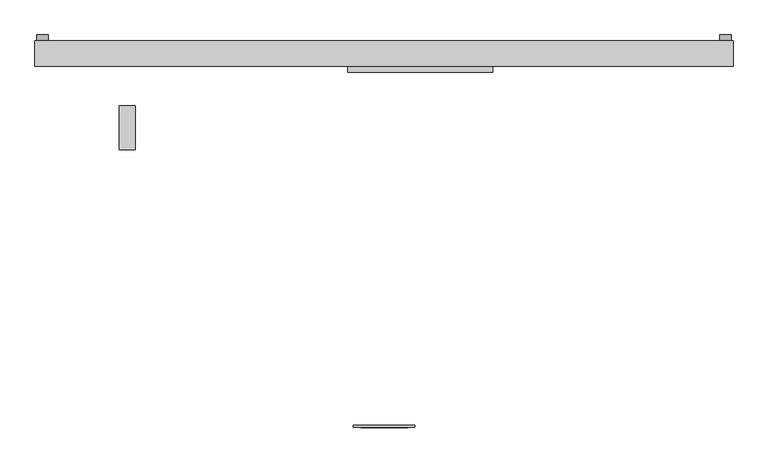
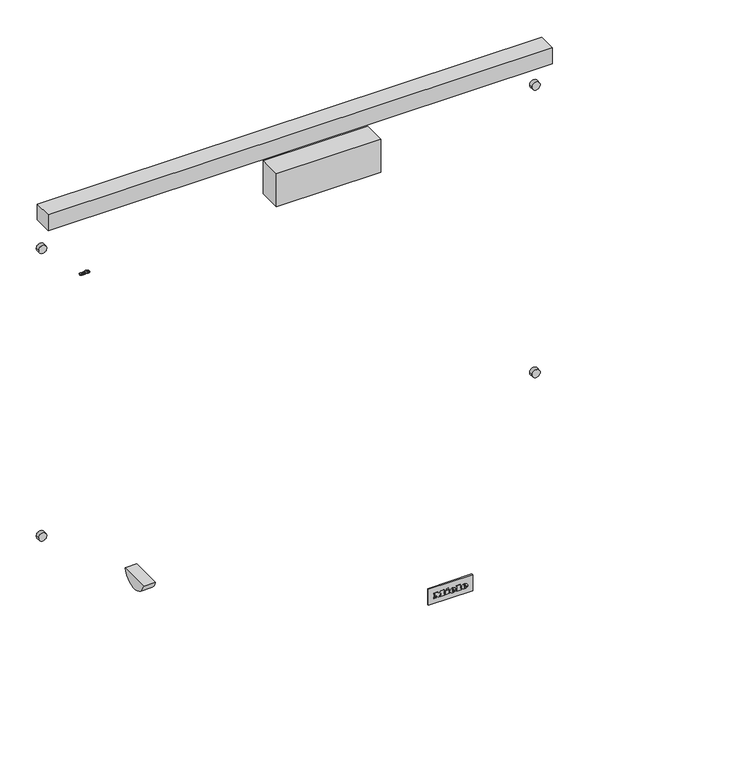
"""IFC4 building model written with IfcOpenShell, lengths in millimetres: proxy geometry, 11791690_USA_HR1955-3G_EDST-CLST : 25195581_USA_11791690_HR1955-3G_EDST-CLST."""

from ifc_helpers import new_model, si_unit, point, frame, frame_2d, origin, place, context, project, spatial, polyline, circle_curve, ellipse_curve, trimmed, segment, composite_curve, outline, extrude, source, transform, mapped, element, save
from ifc_brep_helpers import plane_surface, cylinder_surface, revolved_surface, extruded_surface, advanced_brep


def specialty_equipment_37804b92(model_context):
    return source(origin(), model_context, "Body", "SolidModel", [
        extrude(outline(composite_curve([segment(polyline([(-511.5941465, -31.8216074), (-507.5193946, -31.8216074), (-507.5193946, -33.0727848), (-510.3300756, -33.0727848), (-510.3300756, -34.8953779), (-509.0547934, -35.5734575), (-507.3554891, -35.8730907)]), True, "CONTINUOUS"), segment(trimmed(circle_curve(frame_2d((-507.2763582, -32.1835188)), 3.6904203), [point((-507.3554891, -35.8730907))], [point((-503.5917956, -31.975672))], True, "CARTESIAN"), True, "CONTINUOUS"), segment(trimmed(circle_curve(frame_2d((-507.7742118, -32.2116028)), 4.1890654), [point((-503.5917956, -31.975672))], [point((-507.3924604, -28.0399683))], True, "CARTESIAN"), True, "CONTINUOUS"), segment(trimmed(circle_curve(frame_2d((-507.6434541, -30.7827322)), 2.7542243), [point((-507.3924604, -28.0399683))], [point((-509.7311401, -28.9862582))], True, "CARTESIAN"), True, "CONTINUOUS"), segment(polyline([(-509.7311401, -28.9862582), (-510.2913432, -30.1348449), (-511.4545959, -29.808521), (-510.7222817, -28.1459412)]), True, "CONTINUOUS"), segment(trimmed(circle_curve(frame_2d((-507.5056573, -31.3038983)), 4.5077007), [point((-510.7222817, -28.1459412))], [point((-507.3478593, -26.7989604))], False, "CARTESIAN"), True, "CONTINUOUS"), segment(trimmed(circle_curve(frame_2d((-507.5297107, -32.0029797)), 5.2071956), [point((-507.3478593, -26.7989604))], [point((-502.3225151, -32.0029797))], False, "CARTESIAN"), True, "CONTINUOUS"), segment(trimmed(circle_curve(frame_2d((-507.5187023, -31.9634409)), 5.1963376), [point((-502.3225151, -32.0029797))], [point((-507.5187023, -37.1597785))], False, "CARTESIAN"), True, "CONTINUOUS"), segment(polyline([(-507.5187023, -37.1597785), (-509.5821579, -36.7823822), (-511.5941465, -35.5734575), (-511.5941465, -31.8216074)]), True, "CONTINUOUS")], self_intersect=False)), frame((0.0, 0.0, 753.0), z_axis=(0.0, 0.0, 1.0), x_axis=(1.0, 0.0, 0.0)), (0.0, 0.0, 1.0), 1.0),
        extrude(outline(composite_curve([segment(polyline([(-521.9581842, -34.6489066), (-520.702206, -34.8031213), (-521.6593436, -36.5606642)]), True, "CONTINUOUS"), segment(trimmed(circle_curve(frame_2d((-523.8057471, -33.6354063)), 3.6282478), [point((-521.6593436, -36.5606642))], [point((-525.3962663, -36.8964538))], False, "CARTESIAN"), True, "CONTINUOUS"), segment(trimmed(circle_curve(frame_2d((-524.2731504, -34.593725)), 2.5620205), [point((-525.3962663, -36.8964538))], [point((-526.82893, -34.7724425))], False, "CARTESIAN"), True, "CONTINUOUS"), segment(trimmed(circle_curve(frame_2d((-525.117737, -34.6527843)), 1.7153715), [point((-526.82893, -34.7724425))], [point((-525.647816, -33.021369))], False, "CARTESIAN"), True, "CONTINUOUS"), segment(polyline([(-525.647816, -33.021369), (-523.8069947, -32.4232499), (-522.487673, -30.9770867)]), True, "CONTINUOUS"), segment(trimmed(circle_curve(frame_2d((-523.6408399, -33.351197)), 2.6393548), [point((-522.487673, -30.9770867))], [point((-524.7940069, -30.9770867))], True, "CARTESIAN"), True, "CONTINUOUS"), segment(polyline([(-524.7940069, -30.9770867), (-525.2553884, -31.6611129), (-526.5084996, -31.5072502), (-526.0756304, -30.3795875)]), True, "CONTINUOUS"), segment(trimmed(circle_curve(frame_2d((-523.4527143, -33.6576461)), 4.1982564), [point((-526.0756304, -30.3795875))], [point((-523.5505395, -29.4605295))], False, "CARTESIAN"), True, "CONTINUOUS"), segment(trimmed(circle_curve(frame_2d((-523.4805679, -32.4626064)), 3.0028922), [point((-523.5505395, -29.4605295))], [point((-521.0718203, -30.6694816))], False, "CARTESIAN"), True, "CONTINUOUS"), segment(trimmed(circle_curve(frame_2d((-522.9380028, -31.5301363)), 2.0550823), [point((-521.0718203, -30.6694816))], [point((-521.9341096, -33.323335))], False, "CARTESIAN"), True, "CONTINUOUS"), segment(polyline([(-521.9341096, -33.323335), (-523.8494535, -33.9828408), (-525.5597255, -34.9076387), (-525.1768706, -35.6156702)]), True, "CONTINUOUS"), segment(trimmed(circle_curve(frame_2d((-523.8695779, -32.6018954)), 3.2850956), [point((-525.1768706, -35.6156702))], [point((-522.5622852, -35.6156702))], True, "CARTESIAN"), True, "CONTINUOUS"), segment(polyline([(-522.5622852, -35.6156702), (-521.9581842, -34.6489066)]), True, "CONTINUOUS")], self_intersect=False)), frame((0.0, 0.0, 753.0), z_axis=(0.0, 0.0, 1.0), x_axis=(1.0, 0.0, 0.0)), (0.0, 0.0, 1.0), 1.0),
        extrude(outline(composite_curve([segment(polyline([(-518.5009008, -37.0), (-519.7635363, -37.0), (-519.5191787, -35.9415709), (-519.3778726, -31.1117735)]), True, "CONTINUOUS"), segment(trimmed(circle_curve(frame_2d((-517.887549, -31.1553762)), 1.4909613), [point((-519.3778726, -31.1117735))], [point((-518.1381402, -29.6856246))], False, "CARTESIAN"), True, "CONTINUOUS"), segment(trimmed(circle_curve(frame_2d((-516.6175682, -34.7832301)), 5.3195602), [point((-518.1381402, -29.6856246))], [point((-514.940667, -29.7348914))], False, "CARTESIAN"), True, "CONTINUOUS"), segment(polyline([(-514.940667, -29.7348914), (-513.8643767, -30.4338425), (-513.3177226, -31.6616478), (-514.5710839, -31.8155412), (-515.1628147, -30.9704619)]), True, "CONTINUOUS"), segment(trimmed(circle_curve(frame_2d((-516.389909, -33.6278559)), 2.9270297), [point((-515.1628147, -30.9704619))], [point((-517.835883, -31.0829271))], True, "CARTESIAN"), True, "CONTINUOUS"), segment(polyline([(-517.835883, -31.0829271), (-518.1819155, -32.289686), (-514.9250607, -32.9227545)]), True, "CONTINUOUS"), segment(trimmed(circle_curve(frame_2d((-515.3373847, -35.0439776)), 2.1609254), [point((-514.9250607, -32.9227545))], [point((-513.7872437, -36.5495212))], False, "CARTESIAN"), True, "CONTINUOUS"), segment(trimmed(circle_curve(frame_2d((-515.7230106, -33.6941434)), 3.4496922), [point((-513.7872437, -36.5495212))], [point((-516.9810512, -36.9062626))], False, "CARTESIAN"), True, "CONTINUOUS"), segment(polyline([(-516.9810512, -36.9062626), (-518.1943945, -36.0566705), (-518.5009008, -37.0)]), True, "CONTINUOUS")], self_intersect=False), holes=[composite_curve([segment(polyline([(-518.1808047, -33.7241112), (-517.9778117, -34.8753414), (-517.1808418, -35.5929363), (-515.8846505, -35.8921857)]), True, "CONTINUOUS"), segment(trimmed(circle_curve(frame_2d((-515.6641539, -34.9371101)), 0.980198), [point((-515.8846505, -35.8921857))], [point((-515.0826105, -34.148063))], True, "CARTESIAN"), True, "CONTINUOUS"), segment(polyline([(-515.0826105, -34.148063), (-516.183896, -33.9339948), (-518.1808047, -33.7241112)]), True, "CONTINUOUS")], self_intersect=False)]), frame((0.0, 0.0, 753.0), z_axis=(0.0, 0.0, 1.0), x_axis=(1.0, 0.0, 0.0)), (0.0, 0.0, 1.0), 1.0),
        extrude(outline(composite_curve([segment(trimmed(circle_curve(frame_2d((-152.0, 40.0)), 40.0), [point((-113.2701665, 30.0))], [point((-190.7298335, 30.0))], False, "CARTESIAN"), True, "CONTINUOUS"), segment(polyline([(-190.7298335, 30.0), (-113.2701665, 30.0)]), True, "CONTINUOUS")], self_intersect=False)), frame((-462.5, 0.0, 0.0), z_axis=(1.0, 0.0, 0.0), x_axis=(0.0, 1.0, 0.0)), (0.0, 0.0, 1.0), 28.0),
        extrude(outline(polyline([(-63.5, 0.0), (189.5, 0.0), (189.5, -55.0), (-63.5, -55.0), (-63.5, 0.0)])), frame((0.0, 0.0, 778.0), z_axis=(0.0, 0.0, 1.0), x_axis=(1.0, 0.0, 0.0)), (0.0, 0.0, 1.0), 84.0),
        extrude(outline(composite_curve([segment(trimmed(circle_curve(frame_2d((822.0, 596.5)), 10.0), [point((822.0, 606.5))], [point((822.0, 586.5))], False, "CARTESIAN"), True, "CONTINUOUS"), segment(trimmed(circle_curve(frame_2d((822.0, 596.5)), 10.0), [point((822.0, 586.5))], [point((822.0, 606.5))], False, "CARTESIAN"), True, "CONTINUOUS")], self_intersect=False)), frame((0.0, 0.0, 0.0), z_axis=(0.0, 1.0, 0.0), x_axis=(0.0, 0.0, 1.0)), (0.0, 0.0, 1.0), 10.0),
        extrude(outline(composite_curve([segment(trimmed(circle_curve(frame_2d((87.0, 596.5)), 10.0), [point((87.0, 606.5))], [point((87.0, 586.5))], False, "CARTESIAN"), True, "CONTINUOUS"), segment(trimmed(circle_curve(frame_2d((87.0, 596.5)), 10.0), [point((87.0, 586.5))], [point((87.0, 606.5))], False, "CARTESIAN"), True, "CONTINUOUS")], self_intersect=False)), frame((0.0, 0.0, 0.0), z_axis=(0.0, 1.0, 0.0), x_axis=(0.0, 0.0, 1.0)), (0.0, 0.0, 1.0), 10.0),
        extrude(outline(composite_curve([segment(trimmed(circle_curve(frame_2d((822.0, -596.5)), 10.0), [point((822.0, -586.5))], [point((822.0, -606.5))], False, "CARTESIAN"), True, "CONTINUOUS"), segment(trimmed(circle_curve(frame_2d((822.0, -596.5)), 10.0), [point((822.0, -606.5))], [point((822.0, -586.5))], False, "CARTESIAN"), True, "CONTINUOUS")], self_intersect=False)), frame((0.0, 0.0, 0.0), z_axis=(0.0, 1.0, 0.0), x_axis=(0.0, 0.0, 1.0)), (0.0, 0.0, 1.0), 10.0),
        extrude(outline(composite_curve([segment(trimmed(circle_curve(frame_2d((87.0, -596.5)), 10.0), [point((87.0, -586.5))], [point((87.0, -606.5))], False, "CARTESIAN"), True, "CONTINUOUS"), segment(trimmed(circle_curve(frame_2d((87.0, -596.5)), 10.0), [point((87.0, -606.5))], [point((87.0, -586.5))], False, "CARTESIAN"), True, "CONTINUOUS")], self_intersect=False)), frame((0.0, 0.0, 0.0), z_axis=(0.0, 1.0, 0.0), x_axis=(0.0, 0.0, 1.0)), (0.0, 0.0, 1.0), 10.0),
        advanced_brep(
        [(32.17, -676.0, 148.1995), (32.17, -676.0, 149.563), (41.2015, -676.0, 149.563), (25.4875, -676.0, 149.563), (29.2, -676.0, 145.0), (40.972, -676.0, 148.1995), (36.895, -676.0, 148.1995), (33.682, -676.0, 146.6875), (32.17, -676.0, 151.291), (32.17, -676.0, 152.7625), (34.4785, -676.0, 152.7625), (34.4785, -676.0, 151.291), (32.17, -675.0, 148.1995), (33.682, -675.0, 146.6875), (36.895, -675.0, 148.1995), (40.972, -675.0, 148.1995), (29.2, -675.0, 145.0), (25.4875, -675.0, 149.563), (41.2015, -675.0, 149.563), (32.17, -675.0, 149.563), (32.17, -675.0, 151.291), (34.4785, -675.0, 151.291), (34.4785, -675.0, 152.7625), (32.17, -675.0, 152.7625)],
        [
            (0, 1),
            (1, 2),
            (2, 3, ellipse_curve(frame((33.3445, -676.0, 149.563), z_axis=(0.0, -1.0, 0.0), x_axis=(-1.0, 0.0, 0.0)), 7.857, 6.4935)),
            (3, 4, circle_curve(frame((30.7120736, -676.0, 150.022), z_axis=(0.0, -1.0, 0.0), x_axis=(0.0, 0.0, -1.0)), 5.2446974)),
            (4, 5, circle_curve(frame((33.1872142, -676.0, 153.586), z_axis=(0.0, -1.0, 0.0), x_axis=(0.0, 0.0, -1.0)), 9.46664)),
            (5, 6),
            (6, 7, circle_curve(frame((34.3419118, -676.0, 149.455), z_axis=(0.0, 1.0, 0.0), x_axis=(0.0, 0.0, -1.0)), 2.8450905)),
            (7, 0, circle_curve(frame((33.682, -676.0, 148.1995), z_axis=(0.0, 1.0, 0.0), x_axis=(0.0, 0.0, -1.0)), 1.512)),
            (8, 9),
            (9, 10, circle_curve(frame((33.32425, -676.0, 152.7625), z_axis=(0.0, 1.0, 0.0), x_axis=(0.0, 0.0, -1.0)), 1.15425)),
            (10, 11),
            (11, 8),
            (12, 13, circle_curve(frame((33.682, -675.0, 148.1995), z_axis=(0.0, -1.0, 0.0), x_axis=(0.0, 0.0, -1.0)), 1.512)),
            (13, 14, circle_curve(frame((34.3419118, -675.0, 149.455), z_axis=(0.0, -1.0, 0.0), x_axis=(0.0, 0.0, -1.0)), 2.8450905)),
            (14, 15),
            (15, 16, circle_curve(frame((33.1872142, -675.0, 153.586), z_axis=(0.0, 1.0, 0.0), x_axis=(0.0, 0.0, -1.0)), 9.46664)),
            (16, 17, circle_curve(frame((30.7120736, -675.0, 150.022), z_axis=(0.0, 1.0, 0.0), x_axis=(0.0, 0.0, -1.0)), 5.2446974)),
            (17, 18, ellipse_curve(frame((33.3445, -675.0, 149.563), z_axis=(0.0, 1.0, 0.0), x_axis=(-1.0, 0.0, 0.0)), 7.857, 6.4935)),
            (18, 19),
            (19, 12),
            (20, 21),
            (21, 22),
            (22, 23, circle_curve(frame((33.32425, -675.0, 152.7625), z_axis=(0.0, -1.0, 0.0), x_axis=(0.0, 0.0, -1.0)), 1.15425)),
            (23, 20),
            (0, 12),
            (19, 1),
            (18, 2),
            (5, 15),
            (14, 6),
            (17, 3),
            (13, 7),
            (16, 4),
            (8, 20),
            (23, 9),
            (22, 10),
            (21, 11),
        ],
        [
            plane_surface(frame((32.17, -676.0, 149.563), z_axis=(0.0, -1.0, 0.0), x_axis=(0.0, 0.0, 1.0))),
            plane_surface(frame((32.17, -675.0, 149.563), z_axis=(0.0, 1.0, 0.0), x_axis=(0.0, 0.0, -1.0))),
            plane_surface(frame((32.17, -676.0, 148.1995), z_axis=(1.0, 0.0, 0.0), x_axis=(0.0, 1.0, 0.0))),
            plane_surface(frame((32.17, -676.0, 149.563), z_axis=(0.0, 0.0, -1.0), x_axis=(0.0, 1.0, 0.0))),
            plane_surface(frame((40.972, -676.0, 148.1995), z_axis=(0.0, 0.0, 1.0), x_axis=(0.0, 1.0, 0.0))),
            extruded_surface(trimmed(ellipse_curve(frame((33.3445, -674.0, 149.563), z_axis=(0.0, -1.0, 0.0), x_axis=(-1.0, 0.0, 0.0)), 7.857, 6.4935), [point((41.2015, -674.0, 149.563))], [point((25.4875, -674.0, 149.563))], True, "CARTESIAN"), (0.0, -1.0, 0.0), 1.0),
            revolved_surface(polyline([(34.3419118, -675.0, 146.60990950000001), (34.3419118, -676.0, 146.60990950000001)]), (34.3419118, -675.0, 149.455), (0.0, 1.0, 0.0)),
            revolved_surface(polyline([(33.682, -675.0, 146.6875), (33.682, -676.0, 146.6875)]), (33.682, -675.0, 148.1995), (0.0, 1.0, 0.0)),
            cylinder_surface(frame((30.7120736, -675.0, 150.022), z_axis=(0.0, -1.0, 0.0), x_axis=(0.0, 0.0, -1.0)), 5.2446974),
            cylinder_surface(frame((33.1872142, -675.0, 153.586), z_axis=(0.0, -1.0, 0.0), x_axis=(0.0, 0.0, -1.0)), 9.46664),
            plane_surface(frame((32.17, -676.0, 151.291), z_axis=(1.0, 0.0, 0.0), x_axis=(0.0, 1.0, 0.0))),
            revolved_surface(polyline([(33.32425, -675.0, 151.60825), (33.32425, -676.0, 151.60825)]), (33.32425, -675.0, 152.7625), (0.0, 1.0, 0.0)),
            plane_surface(frame((34.4785, -676.0, 152.7625), z_axis=(-1.0, 0.0, 0.0), x_axis=(0.0, 1.0, 0.0))),
            plane_surface(frame((34.4785, -676.0, 151.291), z_axis=(0.0, 0.0, 1.0), x_axis=(0.0, 1.0, 0.0))),
        ],
        [
            (0, [[1, 2, 3, 4, 5, 6, 7, 8], [9, 10, 11, 12]]),
            (1, [[13, 14, 15, 16, 17, 18, 19, 20], [21, 22, 23, 24]]),
            (2, [[-1, 25, -20, 26]]),
            (3, [[-2, -26, -19, 27]]),
            (4, [[-6, 28, -15, 29]]),
            (5, [[-3, -27, -18, 30]]),
            (6, [[-7, -29, -14, 31]]),
            (7, [[-8, -31, -13, -25]]),
            (8, [[-4, -30, -17, 32]]),
            (9, [[-5, -32, -16, -28]]),
            (10, [[-9, 33, -24, 34]]),
            (11, [[-10, -34, -23, 35]]),
            (12, [[-11, -35, -22, 36]]),
            (13, [[-12, -36, -21, -33]]),
        ],
    ),
        advanced_brep(
        [(3.9955, -676.0, 148.1995), (3.9955, -676.0, 149.563), (13.027, -676.0, 149.563), (-2.687, -676.0, 149.563), (1.0255, -676.0, 145.0), (12.7975, -676.0, 148.1995), (8.7205, -676.0, 148.1995), (5.5075, -676.0, 146.6875), (3.9955, -676.0, 151.291), (3.9955, -676.0, 152.7625), (6.304, -676.0, 152.7625), (6.304, -676.0, 151.291), (3.9955, -675.0, 148.1995), (5.5075, -675.0, 146.6875), (8.7205, -675.0, 148.1995), (12.7975, -675.0, 148.1995), (1.0255, -675.0, 145.0), (-2.687, -675.0, 149.563), (13.027, -675.0, 149.563), (3.9955, -675.0, 149.563), (3.9955, -675.0, 151.291), (6.304, -675.0, 151.291), (6.304, -675.0, 152.7625), (3.9955, -675.0, 152.7625)],
        [
            (0, 1),
            (1, 2),
            (2, 3, ellipse_curve(frame((5.17, -676.0, 149.563), z_axis=(0.0, -1.0, 0.0), x_axis=(-1.0, 0.0, 0.0)), 7.857, 6.4935)),
            (3, 4, circle_curve(frame((2.5375736, -676.0, 150.022), z_axis=(0.0, -1.0, 0.0), x_axis=(0.0, 0.0, -1.0)), 5.2446974)),
            (4, 5, circle_curve(frame((5.0127142, -676.0, 153.586), z_axis=(0.0, -1.0, 0.0), x_axis=(0.0, 0.0, -1.0)), 9.46664)),
            (5, 6),
            (6, 7, circle_curve(frame((6.1674118, -676.0, 149.455), z_axis=(0.0, 1.0, 0.0), x_axis=(0.0, 0.0, -1.0)), 2.8450905)),
            (7, 0, circle_curve(frame((5.5075, -676.0, 148.1995), z_axis=(0.0, 1.0, 0.0), x_axis=(0.0, 0.0, -1.0)), 1.512)),
            (8, 9),
            (9, 10, circle_curve(frame((5.14975, -676.0, 152.7625), z_axis=(0.0, 1.0, 0.0), x_axis=(0.0, 0.0, -1.0)), 1.15425)),
            (10, 11),
            (11, 8),
            (12, 13, circle_curve(frame((5.5075, -675.0, 148.1995), z_axis=(0.0, -1.0, 0.0), x_axis=(0.0, 0.0, -1.0)), 1.512)),
            (13, 14, circle_curve(frame((6.1674118, -675.0, 149.455), z_axis=(0.0, -1.0, 0.0), x_axis=(0.0, 0.0, -1.0)), 2.8450905)),
            (14, 15),
            (15, 16, circle_curve(frame((5.0127142, -675.0, 153.586), z_axis=(0.0, 1.0, 0.0), x_axis=(0.0, 0.0, -1.0)), 9.46664)),
            (16, 17, circle_curve(frame((2.5375736, -675.0, 150.022), z_axis=(0.0, 1.0, 0.0), x_axis=(0.0, 0.0, -1.0)), 5.2446974)),
            (17, 18, ellipse_curve(frame((5.17, -675.0, 149.563), z_axis=(0.0, 1.0, 0.0), x_axis=(-1.0, 0.0, 0.0)), 7.857, 6.4935)),
            (18, 19),
            (19, 12),
            (20, 21),
            (21, 22),
            (22, 23, circle_curve(frame((5.14975, -675.0, 152.7625), z_axis=(0.0, -1.0, 0.0), x_axis=(0.0, 0.0, -1.0)), 1.15425)),
            (23, 20),
            (0, 12),
            (19, 1),
            (18, 2),
            (5, 15),
            (14, 6),
            (17, 3),
            (13, 7),
            (16, 4),
            (8, 20),
            (23, 9),
            (22, 10),
            (21, 11),
        ],
        [
            plane_surface(frame((3.9955, -676.0, 149.563), z_axis=(0.0, -1.0, 0.0), x_axis=(0.0, 0.0, 1.0))),
            plane_surface(frame((3.9955, -675.0, 149.563), z_axis=(0.0, 1.0, 0.0), x_axis=(0.0, 0.0, -1.0))),
            plane_surface(frame((3.9955, -676.0, 148.1995), z_axis=(1.0, 0.0, 0.0), x_axis=(0.0, 1.0, 0.0))),
            plane_surface(frame((3.9955, -676.0, 149.563), z_axis=(0.0, 0.0, -1.0), x_axis=(0.0, 1.0, 0.0))),
            plane_surface(frame((12.7975, -676.0, 148.1995), z_axis=(0.0, 0.0, 1.0), x_axis=(0.0, 1.0, 0.0))),
            extruded_surface(trimmed(ellipse_curve(frame((5.17, -674.0, 149.563), z_axis=(0.0, -1.0, 0.0), x_axis=(-1.0, 0.0, 0.0)), 7.857, 6.4935), [point((13.027, -674.0, 149.563))], [point((-2.687, -674.0, 149.563))], True, "CARTESIAN"), (0.0, -1.0, 0.0), 1.0),
            revolved_surface(polyline([(6.1674118, -675.0, 146.60990950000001), (6.1674118, -676.0, 146.60990950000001)]), (6.1674118, -675.0, 149.455), (0.0, 1.0, 0.0)),
            revolved_surface(polyline([(5.5075, -675.0, 146.6875), (5.5075, -676.0, 146.6875)]), (5.5075, -675.0, 148.1995), (0.0, 1.0, 0.0)),
            cylinder_surface(frame((2.5375736, -675.0, 150.022), z_axis=(0.0, -1.0, 0.0), x_axis=(0.0, 0.0, -1.0)), 5.2446974),
            cylinder_surface(frame((5.0127142, -675.0, 153.586), z_axis=(0.0, -1.0, 0.0), x_axis=(0.0, 0.0, -1.0)), 9.46664),
            plane_surface(frame((3.9955, -676.0, 151.291), z_axis=(1.0, 0.0, 0.0), x_axis=(0.0, 1.0, 0.0))),
            revolved_surface(polyline([(5.14975, -675.0, 151.60825), (5.14975, -676.0, 151.60825)]), (5.14975, -675.0, 152.7625), (0.0, 1.0, 0.0)),
            plane_surface(frame((6.304, -676.0, 152.7625), z_axis=(-1.0, 0.0, 0.0), x_axis=(0.0, 1.0, 0.0))),
            plane_surface(frame((6.304, -676.0, 151.291), z_axis=(0.0, 0.0, 1.0), x_axis=(0.0, 1.0, 0.0))),
        ],
        [
            (0, [[1, 2, 3, 4, 5, 6, 7, 8], [9, 10, 11, 12]]),
            (1, [[13, 14, 15, 16, 17, 18, 19, 20], [21, 22, 23, 24]]),
            (2, [[-1, 25, -20, 26]]),
            (3, [[-2, -26, -19, 27]]),
            (4, [[-6, 28, -15, 29]]),
            (5, [[-3, -27, -18, 30]]),
            (6, [[-7, -29, -14, 31]]),
            (7, [[-8, -31, -13, -25]]),
            (8, [[-4, -30, -17, 32]]),
            (9, [[-5, -32, -16, -28]]),
            (10, [[-9, 33, -24, 34]]),
            (11, [[-10, -34, -23, 35]]),
            (12, [[-11, -35, -22, 36]]),
            (13, [[-12, -36, -21, -33]]),
        ],
    ),
        extrude(outline(polyline([(157.7035, -10.76), (155.5165, -9.734), (157.6495, -5.1575), (159.8365, -6.17), (157.7035, -10.76)])), frame((0.0, -676.0, 0.0), z_axis=(0.0, 1.0, 0.0), x_axis=(0.0, 0.0, 1.0)), (0.0, 0.0, 1.0), 1.0),
        extrude(outline(polyline([(155.2195, -14.0945), (152.803, -14.0945), (152.803, -12.488), (147.268, -12.488), (147.268, -14.0945), (145.0, -14.0945), (145.0, -3.443), (147.268, -3.443), (147.268, -5.009), (155.2195, -5.009), (155.2195, -14.0945)])), frame((0.0, -676.0, 0.0), z_axis=(0.0, 1.0, 0.0), x_axis=(0.0, 0.0, 1.0)), (0.0, 0.0, 1.0), 1.0),
        extrude(outline(polyline([(156.2995, 13.783), (156.2995, 15.403), (147.268, 15.403), (147.268, 13.783), (145.0, 13.783), (145.0, 24.7315), (147.268, 24.7315), (147.268, 23.071), (158.5, 23.071), (158.5, 13.783), (156.2995, 13.783)])), frame((0.0, -676.0, 0.0), z_axis=(0.0, 1.0, 0.0), x_axis=(0.0, 0.0, 1.0)), (0.0, 0.0, 1.0), 1.0),
        extrude(outline(polyline([(156.2995, -41.0), (156.2995, -39.3665), (147.268, -39.3665), (147.268, -41.0), (145.0, -41.0), (145.0, -35.06), (147.268, -35.06), (147.268, -36.68), (152.9756247, -36.68), (145.0, -30.6455), (153.2527223, -24.584), (147.268, -24.584), (147.268, -26.2445), (145.0, -26.2445), (145.0, -15.4715), (147.268, -15.4715), (147.268, -17.186), (156.2995, -17.186), (156.2995, -15.4715), (158.5, -15.4715), (158.5, -23.693), (153.4375, -27.635), (158.5, -31.5905), (158.5, -41.0), (156.2995, -41.0)])), frame((0.0, -676.0, 0.0), z_axis=(0.0, 1.0, 0.0), x_axis=(0.0, 0.0, 1.0)), (0.0, 0.0, 1.0), 1.0),
        extrude(outline(polyline([(609.5, 0.0), (609.5, -45.0), (-609.5, -45.0), (-609.5, 0.0), (609.5, 0.0)])), frame((0.0, 0.0, 902.0), z_axis=(0.0, 0.0, 1.0), x_axis=(1.0, 0.0, 0.0)), (0.0, 0.0, 1.0), 40.0),
        extrude(outline(composite_curve([segment(polyline([(-671.0, 131.0), (-674.5, 131.0)]), True, "CONTINUOUS"), segment(trimmed(circle_curve(frame_2d((-465.0137328, 151.5)), 210.4869263), [point((-674.5, 131.0))], [point((-674.5, 172.0))], False, "CARTESIAN"), True, "CONTINUOUS"), segment(polyline([(-674.5, 172.0), (-671.0, 172.0), (-671.0, 131.0)]), True, "CONTINUOUS")], self_intersect=False)), frame((-53.5, 0.0, 0.0), z_axis=(1.0, 0.0, 0.0), x_axis=(0.0, 1.0, 0.0)), (0.0, 0.0, 1.0), 107.0),
    ])


if __name__ == "__main__":
    model = new_model("IFC4")
    model_context = context("Model", 3, world=origin())
    ifc_project = project(units=[si_unit("LENGTHUNIT", "METRE", prefix="MILLI")], contexts=[model_context])
    site = spatial("IfcSite", under=ifc_project)
    building = spatial("IfcBuilding", under=site)
    placement = place(None, origin())
    specialty_equipment_shape = specialty_equipment_37804b92(model_context)
    element("IfcBuildingElementProxy", 1, Name="11791690_USA_HR1955-3G_EDST-CLST : 25195581_USA_11791690_HR1955-3G_EDST-CLST", ObjectType="11791690_USA_HR1955-3G_EDST-CLST : 25195581_USA_11791690_HR1955-3G_EDST-CLST", at=placement, inside=building, context=model_context, shape_type="MappedRepresentation", body=[
        mapped(specialty_equipment_shape, transform((0.0, 0.0, 0.0), x_axis=(1.0, 0.0, 0.0), y_axis=(0.0, 1.0, 0.0), z_axis=(0.0, 0.0, 1.0))),
    ])
    save(model, "model.ifc")
